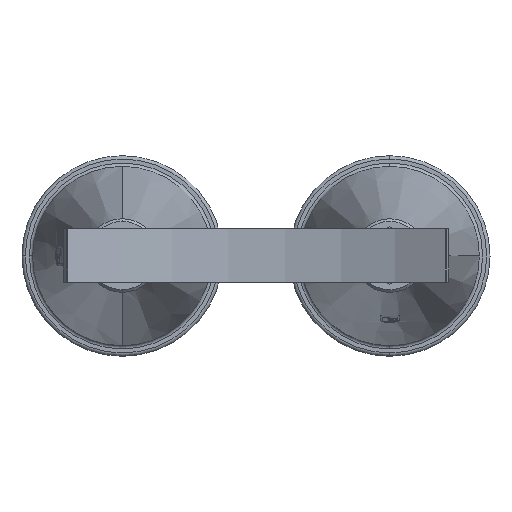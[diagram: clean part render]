
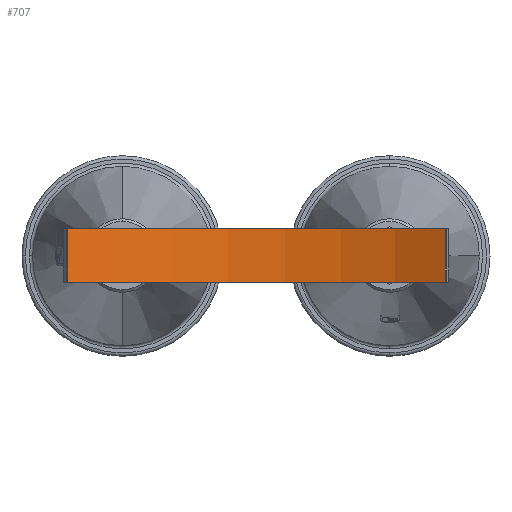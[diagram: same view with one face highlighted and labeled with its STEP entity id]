
A CAD part, top view. The second image highlights one B-rep face of the part: STEP entity #707.
In plain terms, the highlighted cylindrical face has radius 546 mm (diameter 1092 mm), a partial arc.
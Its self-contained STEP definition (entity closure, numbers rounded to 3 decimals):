
#707=ADVANCED_FACE('',(#1395),#1396,.F.);
#1395=FACE_OUTER_BOUND('',#2122,.T.);
#1396=CYLINDRICAL_SURFACE('',#2123,546.);
#2122=EDGE_LOOP('',(#3842,#3843,#3844,#3845));
#2123=AXIS2_PLACEMENT_3D('',#3846,#3847,#3848);
#3842=ORIENTED_EDGE('',*,*,#4741,.T.);
#3843=ORIENTED_EDGE('',*,*,#4731,.F.);
#3844=ORIENTED_EDGE('',*,*,#4742,.T.);
#3845=ORIENTED_EDGE('',*,*,#4738,.T.);
#3846=CARTESIAN_POINT('',(382.809,455.126,740.248));
#3847=DIRECTION('',(0.,-1.0,0.));
#3848=DIRECTION('',(1.0,0.,0.));
#4731=EDGE_CURVE('',#5745,#5740,#5747,.T.);
#4738=EDGE_CURVE('',#5757,#5755,#5758,.T.);
#4741=EDGE_CURVE('',#5755,#5740,#5761,.T.);
#4742=EDGE_CURVE('',#5745,#5757,#5762,.T.);
#5740=VERTEX_POINT('',#8132);
#5745=VERTEX_POINT('',#8139);
#5747=LINE('',#8142,#8143);
#5755=VERTEX_POINT('',#8152);
#5757=VERTEX_POINT('',#8155);
#5758=LINE('',#8156,#8157);
#5761=CIRCLE('',#8161,546.);
#5762=CIRCLE('',#8162,546.);
#8132=CARTESIAN_POINT('',(665.858,375.126,273.345));
#8139=CARTESIAN_POINT('',(665.858,455.126,273.345));
#8142=CARTESIAN_POINT('',(665.858,455.126,273.345));
#8143=VECTOR('',#9780,1.0);
#8152=CARTESIAN_POINT('',(100.886,375.126,272.664));
#8155=CARTESIAN_POINT('',(100.886,455.126,272.664));
#8156=CARTESIAN_POINT('',(100.886,455.126,272.664));
#8157=VECTOR('',#9789,1.0);
#8161=AXIS2_PLACEMENT_3D('',#9791,#9792,#9793);
#8162=AXIS2_PLACEMENT_3D('',#9794,#9795,#9796);
#9780=DIRECTION('',(0.0,-1.0,0.));
#9789=DIRECTION('',(0.0,-1.0,0.));
#9791=CARTESIAN_POINT('',(382.809,375.126,740.248));
#9792=DIRECTION('',(0.,-1.0,0.));
#9793=DIRECTION('',(1.0,0.,0.));
#9794=CARTESIAN_POINT('',(382.809,455.126,740.248));
#9795=DIRECTION('',(0.,1.0,0.));
#9796=DIRECTION('',(1.0,0.,0.));
